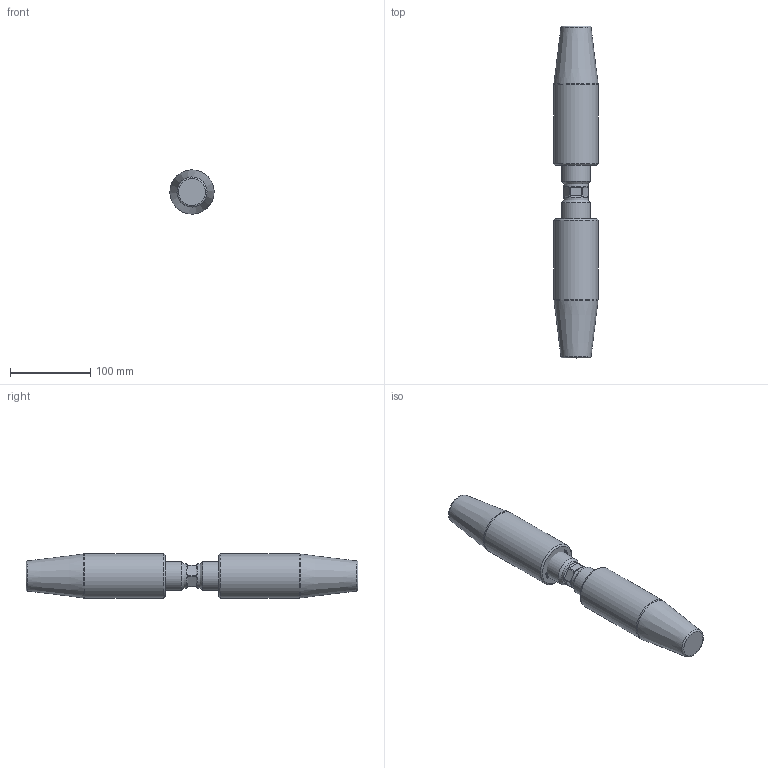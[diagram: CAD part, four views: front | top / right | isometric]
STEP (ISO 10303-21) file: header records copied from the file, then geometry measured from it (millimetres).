
FILE_DESCRIPTION(/* description */ (''),/* implementation_level */ '2;1');
FILE_NAME(/* name */ 'D:\Clienti\Redaelli (inventor)\CYA\STEP\Arrangement\CYA016 52 061 2.stp',/* time_stamp */ '2021-05-09T09:58:04+02:00',/* author */ ('fabri'),/* organization */ (''),/* preprocessor_version */ 'ST-DEVELOPER v16.13',/* originating_system */ 'Autodesk Inventor 2018',/* authorisation */ '');
FILE_SCHEMA (('AUTOMOTIVE_DESIGN { 1 0 10303 214 3 1 1 }'));
Length unit declared in the file: millimetre
Products named in the file (4): CYA012-54-062-0; TBF012-12-012-1; TBF012-13-012-0; TBF012-13-012-0_1
Assembly tree (3 placements, depth 2):
  CYA012-54-062-0
    TBF012-12-012-1
    TBF012-13-012-0
    TBF012-13-012-0_1
Bounding box: 54.96 x 413 x 54.96 mm (x, y, z)
Volume: 902674.5 mm3; surface area: 85039.8 mm2
Topology: 3 solids, 3 shells, 480 faces, 1286 edges, 858 vertices
Faces by surface type: bspline 252, plane 201, cylinder 17, cone 6, torus 4
Full cylindrical faces by diameter (mm): 30.5 x1, 36 x2, 55 x2
Entity records: 16610 total; most frequent: CARTESIAN_POINT 6282, ORIENTED_EDGE 2542, EDGE_CURVE 1271, DIRECTION 1239, VERTEX_POINT 858, LINE 721, VECTOR 721, EDGE_LOOP 541
